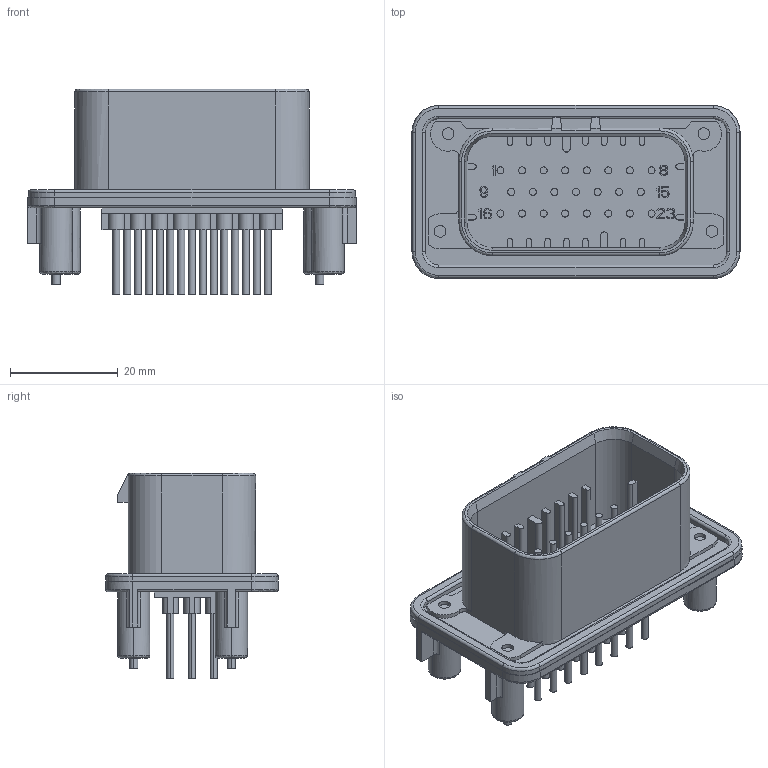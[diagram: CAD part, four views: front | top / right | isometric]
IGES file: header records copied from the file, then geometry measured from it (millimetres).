
Start section:  PTC IGES file: c-776228-1-d-3d.igs
Global section: file name: c-776228-1-d-3d.igs; native system: Pro/ENGINEER by Parametric Technology Corporation; preprocessor: 2009300; author: workeradm; organization: Unknown; units: millimetre
Bounding box: 60.8 x 32.1 x 38.08 mm (x, y, z)
Surface area: 13744 mm2 (no closed solid volume)
Topology: 0 solids, 0 shells, 896 faces, 4822 edges, 4822 vertices
Faces by surface type: bspline 625, revolution 269, extrusion 2
